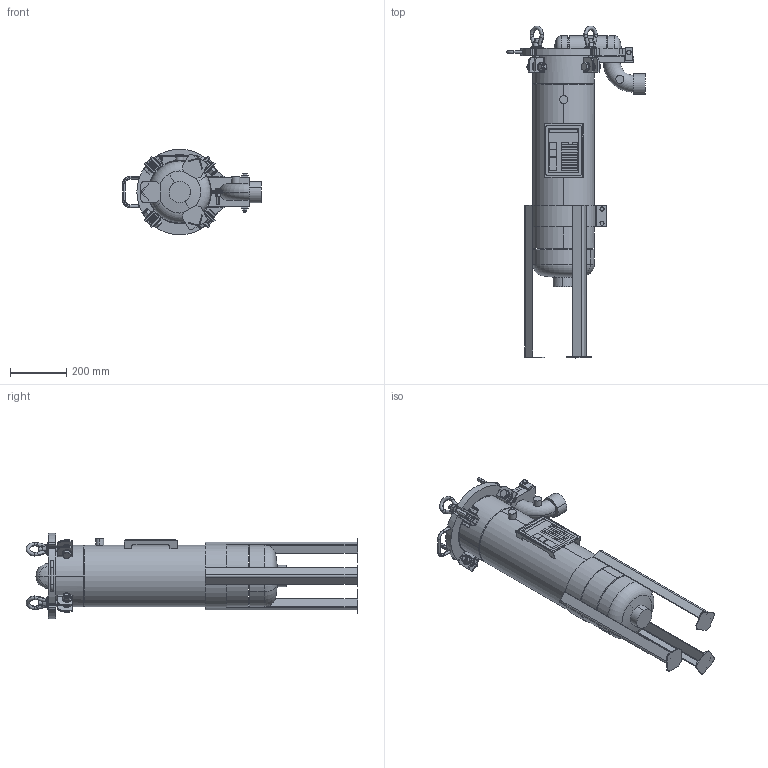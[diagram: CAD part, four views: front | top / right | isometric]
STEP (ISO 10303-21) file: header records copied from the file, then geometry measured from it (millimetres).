
FILE_DESCRIPTION (( 'STEP AP203' ), '1' );
FILE_NAME ('002006-00027.step', '2025-12-09T14:46:59', ( '' ), ( '' ), 'SwSTEP 2.0', 'SolidWorks 2023', '' );
FILE_SCHEMA (( 'CONFIG_CONTROL_DESIGN' ));
Length unit declared in the file: inch
Products named in the file (1): 002006-00027
Bounding box: 493.76 x 1181.53 x 304.8 mm (x, y, z)
Volume: 33716483.3 mm3; surface area: 1633982.7 mm2
Topology: 11 solids, 11 shells, 1021 faces, 2459 edges, 1521 vertices
Faces by surface type: plane 393, cylinder 284, cone 192, torus 78, bspline 66, sphere 8
Entity records: 34392 total; most frequent: CARTESIAN_POINT 10886, DIRECTION 4941, ORIENTED_EDGE 4886, EDGE_CURVE 2443, AXIS2_PLACEMENT_3D 1964, VERTEX_POINT 1521, EDGE_LOOP 1124, FACE_OUTER_BOUND 1021
